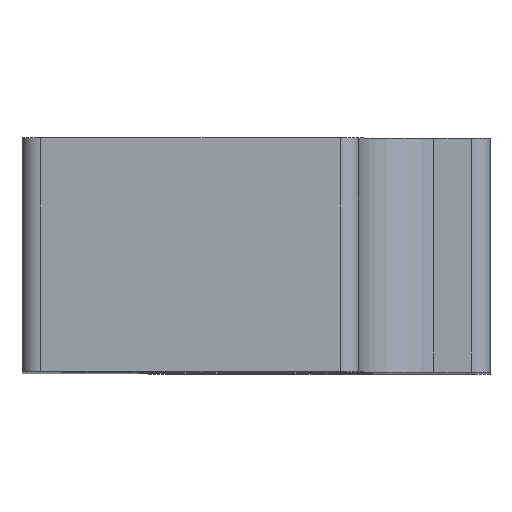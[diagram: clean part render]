
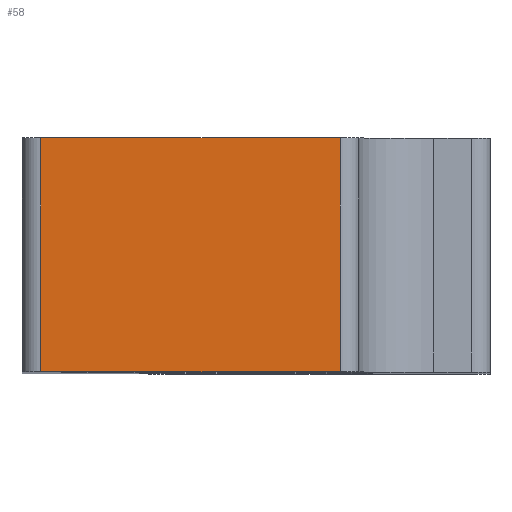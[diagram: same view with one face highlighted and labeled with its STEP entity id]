
A CAD part, top view. The second image highlights one B-rep face of the part: STEP entity #58.
In plain terms, the highlighted planar face has unit normal (0, 0, 1).
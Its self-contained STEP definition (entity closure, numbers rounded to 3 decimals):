
#58=ADVANCED_FACE('',(#263),#262,.T.);
#262=PLANE('',#523);
#263=FACE_OUTER_BOUND('',#524,.T.);
#520=CARTESIAN_POINT('',(-9.04,-5.5,3.));
#521=DIRECTION('',(0.,0.,1.));
#522=DIRECTION('',(1.,0.,0.));
#523=AXIS2_PLACEMENT_3D('',#520,#521,#522);
#524=EDGE_LOOP('',(#794,#795,#796,#797));
#794=ORIENTED_EDGE('',*,*,#877,.F.);
#795=ORIENTED_EDGE('',*,*,#925,.F.);
#796=ORIENTED_EDGE('',*,*,#871,.T.);
#797=ORIENTED_EDGE('',*,*,#924,.T.);
#871=EDGE_CURVE('',#943,#1041,#1048,.T.);
#877=EDGE_CURVE('',#1083,#1090,#1091,.T.);
#924=EDGE_CURVE('',#1041,#1090,#1404,.T.);
#925=EDGE_CURVE('',#943,#1083,#1410,.T.);
#943=VERTEX_POINT('',#1517);
#1041=VERTEX_POINT('',#1580);
#1048=LINE('',#1585,#1586);
#1083=VERTEX_POINT('',#1609);
#1090=VERTEX_POINT('',#1614);
#1091=LINE('',#1615,#1616);
#1404=LINE('',#1812,#1813);
#1410=LINE('',#1815,#1816);
#1517=CARTESIAN_POINT('',(-2.,0.,3.));
#1580=CARTESIAN_POINT('',(-8.4,0.,3.));
#1585=CARTESIAN_POINT('',(-2.,0.,3.));
#1586=VECTOR('',#1587,6.4);
#1587=DIRECTION('',(-1.,0.,0.));
#1609=CARTESIAN_POINT('',(-2.,-5.,3.));
#1614=CARTESIAN_POINT('',(-8.4,-5.,3.));
#1615=CARTESIAN_POINT('',(-2.,-5.,3.));
#1616=VECTOR('',#1617,6.4);
#1617=DIRECTION('',(-1.,0.,0.));
#1812=CARTESIAN_POINT('',(-8.4,0.,3.));
#1813=VECTOR('',#1814,5.);
#1814=DIRECTION('',(0.,-1.,0.));
#1815=CARTESIAN_POINT('',(-2.,0.,3.));
#1816=VECTOR('',#1817,5.);
#1817=DIRECTION('',(0.,-1.,0.));
